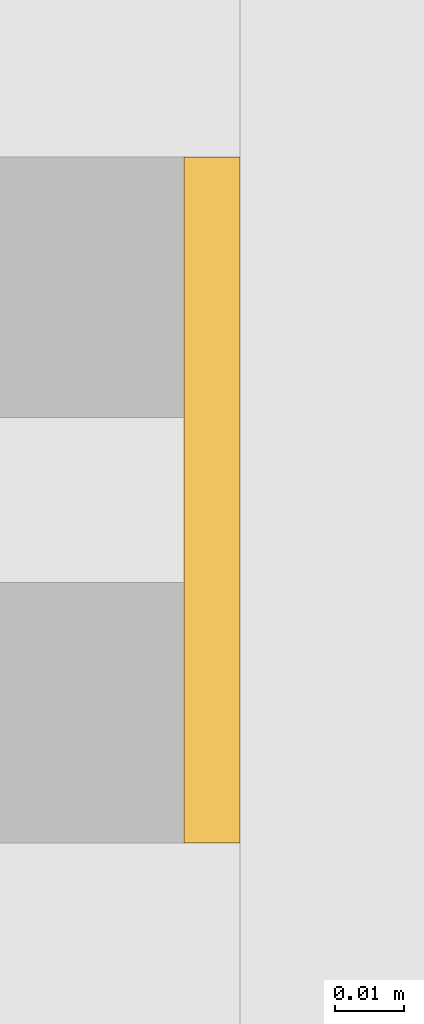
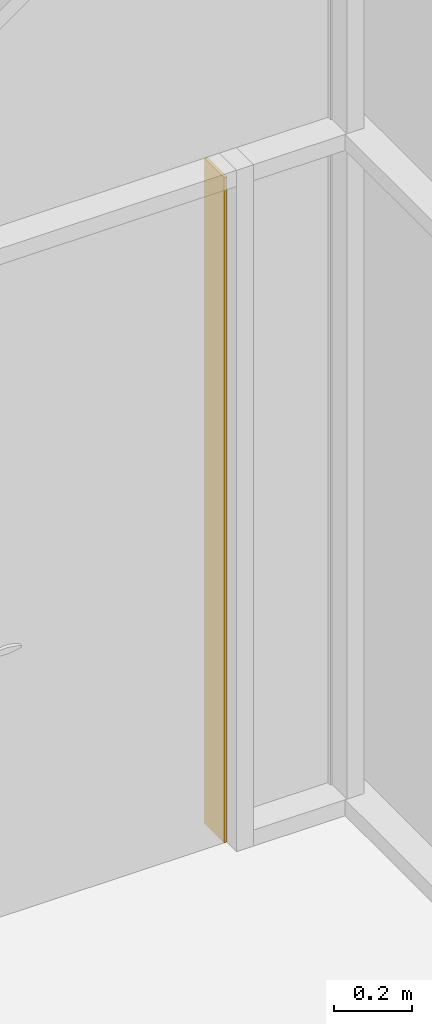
# One storey, part 73 of 100: 1 curtain wall, 1 opening, 1 element without a shape of its own.
"""IFC2X3 building model written with IfcOpenShell, lengths in millimetres."""

from ifc_helpers import new_model, entity, si_unit, converted_unit, derived_unit, direction, frame, frame_2d, origin, place, context, subcontext, project, spatial, rectangle, extrude, material, layer, layer_set, layer_usage, type_object, element, aggregate, save


model = new_model("IFC2X3")

# Units and contexts
model_context = context("Model", 3, precision=0.01, world=origin(), true_north=direction((6.123031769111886e-17, 1.0)))
body_context = subcontext(model_context, "Body", "Model", "MODEL_VIEW")
ifc_project = project(units=[si_unit("LENGTHUNIT", "METRE", prefix="MILLI"), si_unit("AREAUNIT", "SQUARE_METRE"), si_unit("VOLUMEUNIT", "CUBIC_METRE"), converted_unit("PLANEANGLEUNIT", "DEGREE", entity("IfcRatioMeasure", 0.017453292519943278), si_unit("PLANEANGLEUNIT", "RADIAN"), dimensions=[0, 0, 0, 0, 0, 0, 0]), si_unit("MASSUNIT", "GRAM", prefix="KILO"), derived_unit("MASSDENSITYUNIT", [(si_unit("MASSUNIT", "GRAM", prefix="KILO"), 1), (si_unit("LENGTHUNIT", "METRE"), -3)]), derived_unit("MOMENTOFINERTIAUNIT", [(si_unit("LENGTHUNIT", "METRE"), 4)]), si_unit("TIMEUNIT", "SECOND"), si_unit("FREQUENCYUNIT", "HERTZ"), si_unit("THERMODYNAMICTEMPERATUREUNIT", "DEGREE_CELSIUS"), derived_unit("THERMALTRANSMITTANCEUNIT", [(si_unit("MASSUNIT", "GRAM", prefix="KILO"), 1), (si_unit("THERMODYNAMICTEMPERATUREUNIT", "KELVIN"), -1), (si_unit("TIMEUNIT", "SECOND"), -3)]), derived_unit("VOLUMETRICFLOWRATEUNIT", [(si_unit("LENGTHUNIT", "METRE"), 3), (si_unit("TIMEUNIT", "SECOND"), -1)]), derived_unit("MASSFLOWRATEUNIT", [(si_unit("MASSUNIT", "GRAM", prefix="KILO"), 1), (si_unit("TIMEUNIT", "SECOND"), -1)]), derived_unit("ROTATIONALFREQUENCYUNIT", [(si_unit("TIMEUNIT", "SECOND"), -1)]), si_unit("ELECTRICCURRENTUNIT", "AMPERE"), si_unit("ELECTRICVOLTAGEUNIT", "VOLT"), si_unit("POWERUNIT", "WATT"), si_unit("FORCEUNIT", "NEWTON", prefix="KILO"), si_unit("ILLUMINANCEUNIT", "LUX"), si_unit("LUMINOUSFLUXUNIT", "LUMEN"), si_unit("LUMINOUSINTENSITYUNIT", "CANDELA"), derived_unit("USERDEFINED", [(si_unit("MASSUNIT", "GRAM", prefix="KILO"), -1), (si_unit("LENGTHUNIT", "METRE"), -2), (si_unit("TIMEUNIT", "SECOND"), 3), (si_unit("LUMINOUSFLUXUNIT", "LUMEN"), 1)]), derived_unit("SOUNDPOWERUNIT", [(si_unit("MASSUNIT", "GRAM", prefix="KILO"), 1), (si_unit("LENGTHUNIT", "METRE"), 2), (si_unit("TIMEUNIT", "SECOND"), -3)]), derived_unit("SOUNDPRESSUREUNIT", [(si_unit("MASSUNIT", "GRAM", prefix="KILO"), 1), (si_unit("LENGTHUNIT", "METRE"), -1), (si_unit("TIMEUNIT", "SECOND"), -2)]), derived_unit("LINEARVELOCITYUNIT", [(si_unit("LENGTHUNIT", "METRE"), 1), (si_unit("TIMEUNIT", "SECOND"), -1)]), si_unit("PRESSUREUNIT", "PASCAL"), derived_unit("USERDEFINED", [(si_unit("LENGTHUNIT", "METRE"), -2), (si_unit("MASSUNIT", "GRAM", prefix="KILO"), 1), (si_unit("TIMEUNIT", "SECOND"), -2)]), derived_unit("LINEARFORCEUNIT", [(si_unit("MASSUNIT", "GRAM", prefix="KILO"), 1), (si_unit("LENGTHUNIT", "METRE"), 1), (si_unit("TIMEUNIT", "SECOND"), -2), (si_unit("LENGTHUNIT", "METRE"), -1)]), derived_unit("PLANARFORCEUNIT", [(si_unit("MASSUNIT", "GRAM", prefix="KILO"), 1), (si_unit("LENGTHUNIT", "METRE"), 1), (si_unit("TIMEUNIT", "SECOND"), -2), (si_unit("LENGTHUNIT", "METRE"), -2)])], contexts=[model_context])

# Site, building, storey
site_placement = place(None, frame((-14167.972527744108, -657.2125860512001, 0.0)))
site = spatial("IfcSite", under=ifc_project, at=site_placement, Name="Default", CompositionType="ELEMENT")
building_placement = place(site_placement, origin())
building = spatial("IfcBuilding", under=site, at=building_placement, Name="Sample Building", CompositionType="ELEMENT")
storey_placement = place(building_placement, origin())
storey = spatial("IfcBuildingStorey", under=building, at=storey_placement, Name="지상 1층", CompositionType="ELEMENT", Elevation=0.0)

# Curtain walls, opening
curtain_wall_type_1 = type_object("IfcCurtainWallType", Name="커튼월:CW112-스테인리스 스틸 커튼월", PredefinedType="NOTDEFINED")
curtain_wall_1_placement = place(storey_placement, origin())
curtain_wall_1 = element("IfcCurtainWall", 1, at=curtain_wall_1_placement, inside=storey, type_object=curtain_wall_type_1, Name="커튼월:CW112-스테인리스 스틸 커튼월", ObjectType="커튼월:CW112-스테인리스 스틸 커튼월")
ifc_material = material(Name="KBIMS-콘크리트")
ifc_layer = layer(ifc_material, 100.0)
ifc_layer_set = layer_set([ifc_layer], Name="커튼월:CW112-스테인리스 스틸 커튼월")
ifc_layer_usage = layer_usage(ifc_layer_set, "AXIS2", "NEGATIVE", 50.0)
curtain_wall_type_2 = type_object("IfcCurtainWallType", Name="기본 벽:WA111-철근콘크리트구조 벽 100mm", PredefinedType="NOTDEFINED", material=ifc_layer_set)
curtain_wall_2_placement = place(storey_placement, frame((29693.072915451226, 5057.177624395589, 80.0), z_axis=(0.0, 0.0, 1.0), x_axis=(-1.0, 0.0, 0.0)))
curtain_wall_2 = element("IfcCurtainWall", 2, at=curtain_wall_2_placement, type_object=curtain_wall_type_2, material=ifc_layer_usage, Name="기본 벽:WA111-철근콘크리트구조 벽 100mm", ObjectType="기본 벽:WA111-철근콘크리트구조 벽 100mm", context=body_context, shape_type="SweptSolid", body=[
    extrude(rectangle(XDim=8.109095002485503, YDim=100.0, at=frame_2d((-2.1658230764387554e-12, 5.435651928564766e-13), x_axis=(1.0, 0.0))), frame((4.054547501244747, 0.0, 0.0)), (0.0, 0.0, 1.0), 2075.0),
])
opening_placement = place(curtain_wall_2_placement, frame((8.109095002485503, -50.0, -25.0)))
element("IfcOpeningElement", 3, at=opening_placement, cuts=curtain_wall_2, Name="DR120-쌍여닫이문:DR120-쌍여닫이문:1", ObjectType="Opening", context=body_context, shape_type="SweptSolid", body=[
    extrude(rectangle(XDim=2099.9999999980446, YDim=1749.9999999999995, at=frame_2d((1049.9999999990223, 874.9999999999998), x_axis=(1.0, 0.0))), frame((0.0, 0.0, 0.0), z_axis=(0.0, 1.0, 0.0), x_axis=(0.0, 0.0, 1.0)), (0.0, 0.0, 1.0), 100.0),
])
aggregate(curtain_wall_1, [curtain_wall_2])

save(model, "model.ifc")
